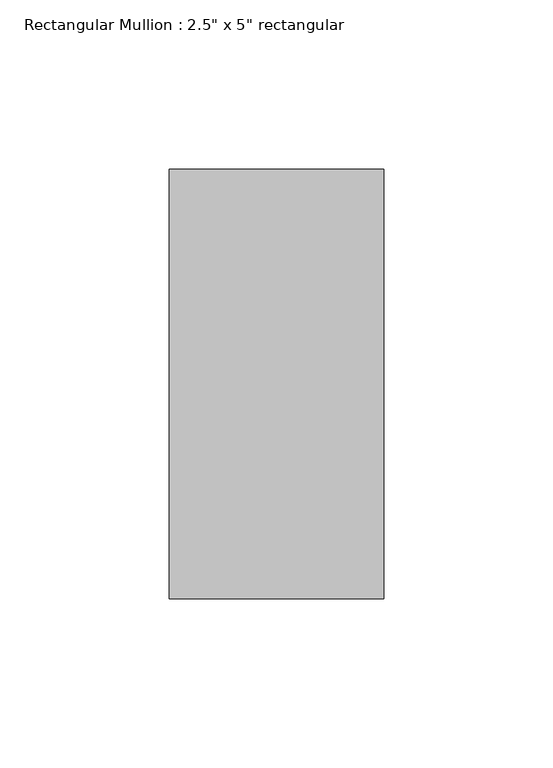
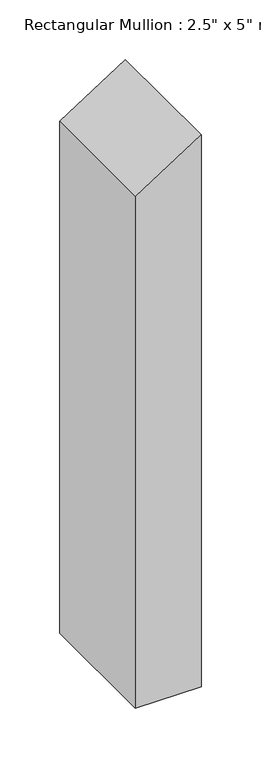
"""IFC4 building model written with IfcOpenShell, lengths in millimetres: member geometry."""

from ifc_helpers import new_model, si_unit, frame, origin, place, context, project, spatial, polyline, outline, extrude, source, transform, mapped, element, save


def member_0d25082b(model_context):
    return source(origin(), model_context, "Body", "SweptSolid", [
        extrude(outline(polyline([(0.0, 0.0), (-41.0424238, -63.5), (-564.4677208, -63.5), (-564.4677208, 0.0), (0.0, 0.0)])), frame((0.0, -63.5, 0.0), z_axis=(0.0, 1.0, 0.0), x_axis=(0.0, 0.0, 1.0)), (0.0, 0.0, 1.0), 127.0),
    ])


if __name__ == "__main__":
    model = new_model("IFC4")
    model_context = context("Model", 3, world=origin())
    ifc_project = project(units=[si_unit("LENGTHUNIT", "METRE", prefix="MILLI")], contexts=[model_context])
    site = spatial("IfcSite", under=ifc_project)
    building = spatial("IfcBuilding", under=site)
    placement = place(None, origin())
    member_shape = member_0d25082b(model_context)
    element("IfcMember", 1, ObjectType="Rectangular Mullion : 2.5\" x 5\" rectangular", at=placement, inside=building, context=model_context, shape_type="MappedRepresentation", body=[
        mapped(member_shape, transform((0.0, 0.0, 0.0), x_axis=(1.0, 0.0, 0.0), y_axis=(0.0, 1.0, 0.0), z_axis=(0.0, 0.0, 1.0))),
    ])
    save(model, "model.ifc")
